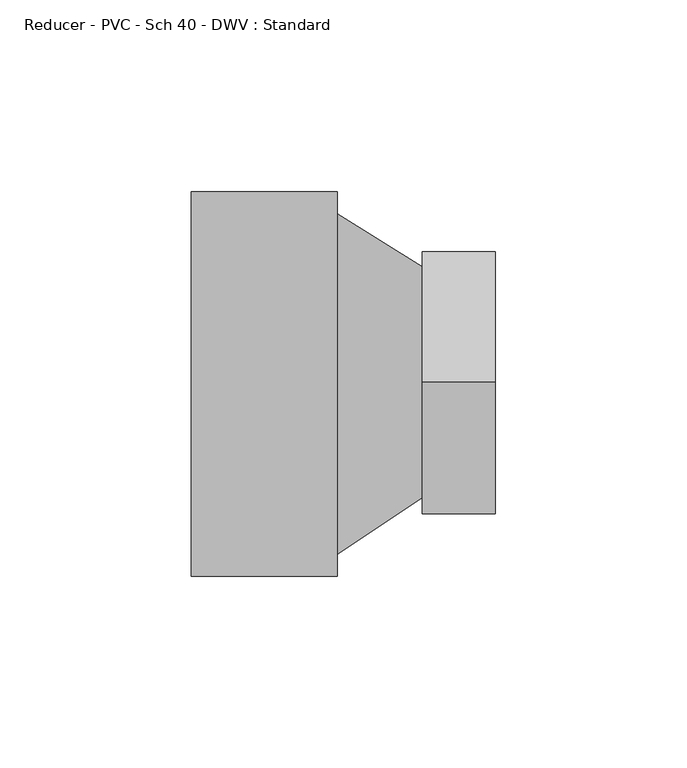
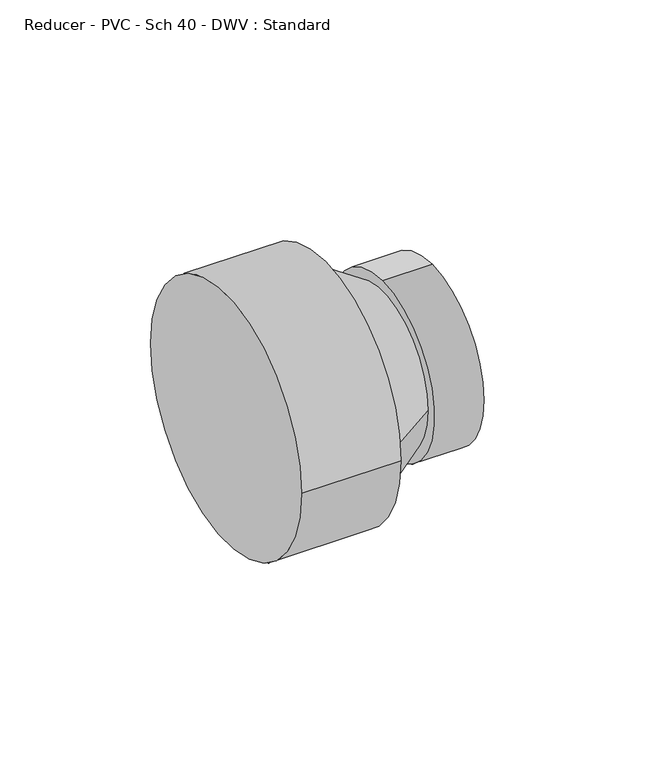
"""IFC4 building model written with IfcOpenShell, lengths in millimetres: pipe fitting geometry, Reducer - PVC - Sch 40 - DWV : Standard."""

from ifc_helpers import new_model, si_unit, frame, origin, place, context, project, spatial, circle_curve, source, transform, mapped, element, save
from ifc_brep_helpers import plane_surface, cylinder_surface, spline_surface, advanced_brep


def reducer_pvc_sch_40_dwv_standard_a11596a5(model_context):
    return source(origin(), model_context, "Body", "AdvancedBrep", [
        advanced_brep(
        [(0.0, 50.2666, 0.0), (0.0, -50.2666, 0.0), (38.1, 50.2666, 0.0), (38.1, -50.2666, 0.0), (38.1, -44.45, 0.0), (38.1, 44.45, 0.0), (60.325, 30.5625, 0.0), (60.325, -29.7625, 0.0), (60.325, 0.4, 34.3154), (60.325, 0.4, -34.3154), (79.375, 0.4, 34.3154), (79.375, 0.4, -34.3154)],
        [
            (0, 1, circle_curve(frame((0.0, 0.0, 0.0), z_axis=(-1.0, 0.0, 0.0), x_axis=(0.0, -1.0, 0.0)), 50.2666)),
            (1, 0, circle_curve(frame((0.0, 0.0, 0.0), z_axis=(-1.0, 0.0, 0.0), x_axis=(0.0, -1.0, 0.0)), 50.2666)),
            (2, 3, circle_curve(frame((38.1, 0.0, 0.0), z_axis=(1.0, 0.0, 0.0), x_axis=(0.0, -1.0, 0.0)), 50.2666)),
            (3, 2, circle_curve(frame((38.1, 0.0, 0.0), z_axis=(1.0, 0.0, 0.0), x_axis=(0.0, -1.0, 0.0)), 50.2666)),
            (4, 5, circle_curve(frame((38.1, 0.0, 0.0), z_axis=(-1.0, 0.0, 0.0), x_axis=(0.0, -1.0, 0.0)), 44.45)),
            (5, 4, circle_curve(frame((38.1, 0.0, 0.0), z_axis=(-1.0, 0.0, 0.0), x_axis=(0.0, -1.0, 0.0)), 44.45)),
            (1, 3),
            (2, 0),
            (5, 6),
            (6, 7, circle_curve(frame((60.325, 0.4, 0.0), z_axis=(-1.0, 0.0, 0.0), x_axis=(0.0, -1.0, 0.0)), 30.1625)),
            (7, 4),
            (7, 6, circle_curve(frame((60.325, 0.4, 0.0), z_axis=(-1.0, 0.0, 0.0), x_axis=(0.0, -1.0, 0.0)), 30.1625)),
            (8, 9, circle_curve(frame((60.325, 0.4, 0.0), z_axis=(-1.0, 0.0, 0.0), x_axis=(0.0, 0.0, -1.0)), 34.3154)),
            (9, 8, circle_curve(frame((60.325, 0.4, 0.0), z_axis=(-1.0, 0.0, 0.0), x_axis=(0.0, 0.0, -1.0)), 34.3154)),
            (10, 11, circle_curve(frame((79.375, 0.4, 0.0), z_axis=(1.0, 0.0, 0.0), x_axis=(0.0, 0.0, -1.0)), 34.3154)),
            (11, 10, circle_curve(frame((79.375, 0.4, 0.0), z_axis=(1.0, 0.0, 0.0), x_axis=(0.0, 0.0, -1.0)), 34.3154)),
            (9, 11),
            (10, 8),
        ],
        [
            plane_surface(frame((0.0, 0.0, 0.0), z_axis=(-1.0, 0.0, 0.0), x_axis=(0.0, 0.0, 1.0))),
            plane_surface(frame((38.1, 0.0, 0.0), z_axis=(1.0, 0.0, 0.0), x_axis=(0.0, 0.0, 1.0))),
            cylinder_surface(frame((0.0, 0.0, 0.0), z_axis=(-1.0, 0.0, 0.0), x_axis=(0.0, -1.0, 0.0)), 50.2666),
            spline_surface(1, 2, [[(38.1, 44.45, 0.0), (38.1, 44.45, -44.45), (38.1, 0.0, -44.45), (38.1, -44.45, -44.45), (38.1, -44.45, 0.0)], [(60.325, 30.5625, 0.0), (60.325, 30.5625, -30.1625), (60.325, 0.4, -30.1625), (60.325, -29.762500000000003, -30.1625), (60.325, -29.7625, 0.0)]], [2, 2], [3, 2, 3], [0.0, 1.0], [0.0, 1.0, 2.0], weights=[[1.0, 0.7071067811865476, 1.0, 0.7071067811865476, 1.0], [1.0, 0.7071067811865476, 1.0, 0.7071067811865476, 1.0]]),
            spline_surface(1, 2, [[(38.1, -44.45, 0.0), (38.1, -44.45, 44.45), (38.1, 0.0, 44.45), (38.1, 44.45, 44.45), (38.1, 44.45, 0.0)], [(60.325, -29.7625, 0.0), (60.325, -29.7625, 30.162499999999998), (60.325, 0.4, 30.162499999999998), (60.325, 30.562499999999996, 30.162499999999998), (60.325, 30.5625, 0.0)]], [2, 2], [3, 2, 3], [0.0, 1.0], [0.0, 1.0, 2.0], weights=[[1.0, 0.7071067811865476, 1.0, 0.7071067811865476, 1.0], [1.0, 0.7071067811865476, 1.0, 0.7071067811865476, 1.0]]),
            plane_surface(frame((60.325, 0.4, 0.0), z_axis=(-1.0, 0.0, 0.0), x_axis=(0.0, -1.0, 0.0))),
            plane_surface(frame((79.375, 0.4, 0.0), z_axis=(1.0, 0.0, 0.0), x_axis=(0.0, -1.0, 0.0))),
            cylinder_surface(frame((60.325, 0.4, 0.0), z_axis=(-1.0, 0.0, 0.0), x_axis=(0.0, 0.0, -1.0)), 34.3154),
        ],
        [
            (0, [[1, 2]]),
            (1, [[3, 4], [5, 6]]),
            (2, [[7, -3, 8, -2]]),
            (2, [[-8, -4, -7, -1]]),
            (3, [[-6, 9, 10, 11]]),
            (4, [[12, -9, -5, -11]]),
            (5, [[13, 14], [-12, -10]]),
            (6, [[15, 16]]),
            (7, [[17, -15, 18, -14]]),
            (7, [[-18, -16, -17, -13]]),
        ],
    ),
    ])


if __name__ == "__main__":
    model = new_model("IFC4")
    model_context = context("Model", 3, world=origin())
    ifc_project = project(units=[si_unit("LENGTHUNIT", "METRE", prefix="MILLI")], contexts=[model_context])
    site = spatial("IfcSite", under=ifc_project)
    building = spatial("IfcBuilding", under=site)
    placement = place(None, origin())
    reducer_pvc_sch_40_dwv_standard_shape = reducer_pvc_sch_40_dwv_standard_a11596a5(model_context)
    element("IfcPipeFitting", 1, ObjectType="Reducer - PVC - Sch 40 - DWV : Standard", at=placement, inside=building, context=model_context, shape_type="MappedRepresentation", body=[
        mapped(reducer_pvc_sch_40_dwv_standard_shape, transform((0.0, 0.0, 0.0), x_axis=(1.0, 0.0, 0.0), y_axis=(0.0, 1.0, 0.0), z_axis=(0.0, 0.0, 1.0))),
    ])
    save(model, "model.ifc")
